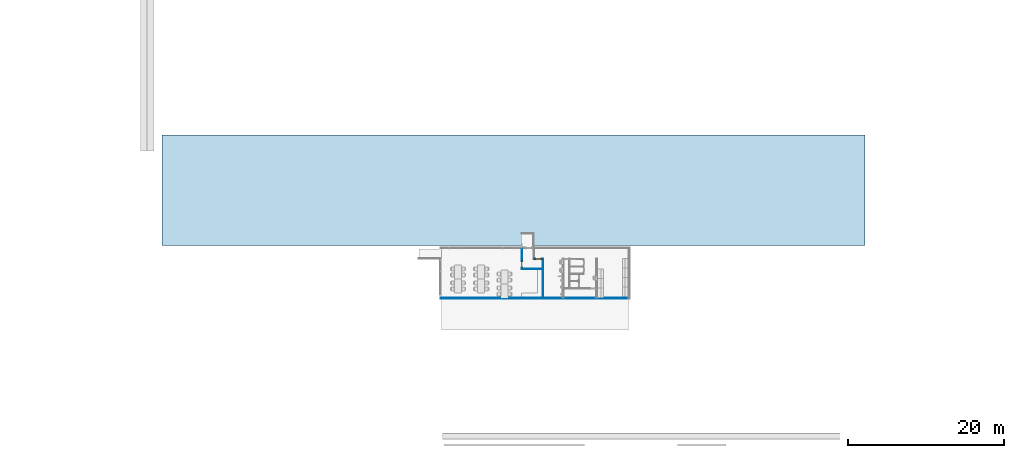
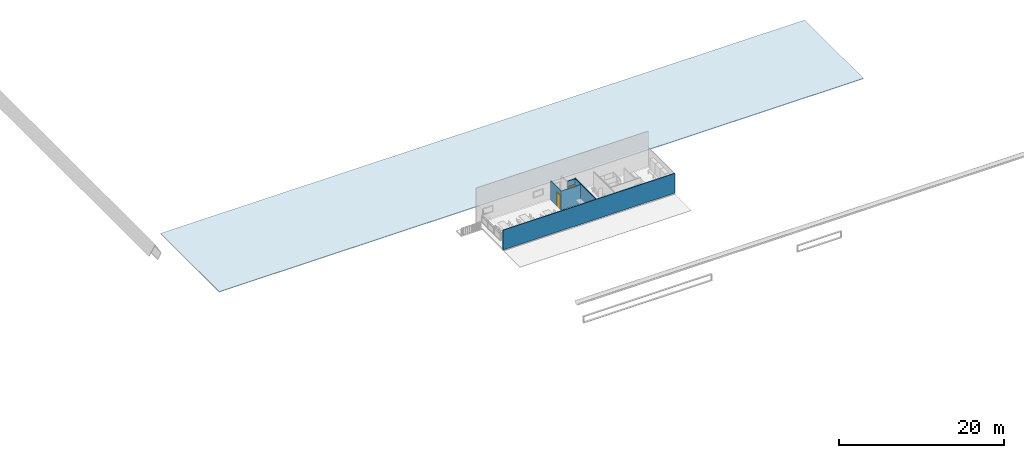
# One storey, part 2 of 6: 5 walls, 2 doors, 1 slab, 2 openings.
"""IFC2X3 building model written with IfcOpenShell, lengths in millimetres."""

from ifc_helpers import new_model, entity, si_unit, converted_unit, derived_unit, direction, frame, frame_2d, origin, origin_2d_with_axis, place, context, subcontext, project, spatial, polyline, rectangle, outline, extrude, source, transform, mapped, material, material_list, layer, layer_set, layer_usage, type_object, type_shapes, element, fill, save


model = new_model("IFC2X3")

# Units and contexts
model_context = context("Model", 3, precision=0.01, world=origin(), true_north=direction((4.05803320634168e-15, -1.0)))
body_context = subcontext(model_context, "Body", "Model", "MODEL_VIEW")
ifc_project = project(units=[si_unit("LENGTHUNIT", "METRE", prefix="MILLI"), si_unit("AREAUNIT", "SQUARE_METRE"), si_unit("VOLUMEUNIT", "CUBIC_METRE"), converted_unit("PLANEANGLEUNIT", "DEGREE", entity("IfcRatioMeasure", 0.0174532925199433), si_unit("PLANEANGLEUNIT", "RADIAN"), dimensions=[0, 0, 0, 0, 0, 0, 0]), si_unit("MASSUNIT", "GRAM", prefix="KILO"), derived_unit("MASSDENSITYUNIT", [(si_unit("MASSUNIT", "GRAM", prefix="KILO"), 1), (si_unit("LENGTHUNIT", "METRE"), -3)]), si_unit("TIMEUNIT", "SECOND"), si_unit("FREQUENCYUNIT", "HERTZ"), si_unit("THERMODYNAMICTEMPERATUREUNIT", "DEGREE_CELSIUS"), derived_unit("THERMALTRANSMITTANCEUNIT", [(si_unit("MASSUNIT", "GRAM", prefix="KILO"), 1), (si_unit("THERMODYNAMICTEMPERATUREUNIT", "KELVIN"), -1), (si_unit("TIMEUNIT", "SECOND"), -3)]), derived_unit("VOLUMETRICFLOWRATEUNIT", [(si_unit("LENGTHUNIT", "METRE"), 3), (si_unit("TIMEUNIT", "SECOND"), -1)]), si_unit("ELECTRICCURRENTUNIT", "AMPERE"), si_unit("ELECTRICVOLTAGEUNIT", "VOLT"), si_unit("POWERUNIT", "WATT"), si_unit("FORCEUNIT", "NEWTON", prefix="KILO"), si_unit("ILLUMINANCEUNIT", "LUX"), si_unit("LUMINOUSFLUXUNIT", "LUMEN"), si_unit("LUMINOUSINTENSITYUNIT", "CANDELA"), derived_unit("USERDEFINED", [(si_unit("MASSUNIT", "GRAM", prefix="KILO"), -1), (si_unit("LENGTHUNIT", "METRE"), -2), (si_unit("TIMEUNIT", "SECOND"), 3), (si_unit("LUMINOUSFLUXUNIT", "LUMEN"), 1)]), derived_unit("LINEARVELOCITYUNIT", [(si_unit("LENGTHUNIT", "METRE"), 1), (si_unit("TIMEUNIT", "SECOND"), -1)]), si_unit("PRESSUREUNIT", "PASCAL"), derived_unit("USERDEFINED", [(si_unit("LENGTHUNIT", "METRE"), -2), (si_unit("MASSUNIT", "GRAM", prefix="KILO"), 1), (si_unit("TIMEUNIT", "SECOND"), -2)])], contexts=[model_context])

# Site, building, storey
site_placement = place(None, frame((927466.849349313, 583801.882853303, 0.0), z_axis=(0.0, 0.0, 1.0), x_axis=(-1.0, 0.0, 0.0)))
site = spatial("IfcSite", under=ifc_project, at=site_placement, Name="Surface", CompositionType="ELEMENT")
building_placement = place(site_placement, origin())
building = spatial("IfcBuilding", under=site, at=building_placement, CompositionType="ELEMENT")
storey_placement = place(building_placement, frame((0.0, 0.0, 51027.1066036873)))
storey = spatial("IfcBuildingStorey", under=building, at=storey_placement, Name="2nd floor", CompositionType="ELEMENT", Elevation=51027.1066036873)

# Slab
ifc_material_1 = material(Name="Isopenal")
ifc_layer_1 = layer(ifc_material_1, 100.0)
ifc_layer_set_1 = layer_set([ifc_layer_1], Name="Floor:isopanel ceiling")
ifc_layer_usage_1 = layer_usage(ifc_layer_set_1, "AXIS3", "POSITIVE", 0.0)
slab_placement = place(storey_placement, origin())
element("IfcSlab", 1, at=slab_placement, inside=storey, material=ifc_layer_usage_1, Name="Floor:isopanel ceiling", ObjectType="Floor:isopanel ceiling", PredefinedType="FLOOR", context=body_context, shape_type="SweptSolid", body=[
    extrude(rectangle(XDim=14200.0180722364, YDim=89999.9999999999, at=frame_2d((0.0, -7.27595761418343e-12), x_axis=(1.0, 0.0))), frame((-90100.5917798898, 4578.26871510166, 2242.89339631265), z_axis=(0.0, 0.0, -1.0), x_axis=(0.0, 1.0, 0.0)), (0.0, 0.0, 1.0), 100.000000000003),
])

# Walls
ifc_material_2 = material(Name="Partition")
ifc_layer_2 = layer(ifc_material_2, 100.0)
ifc_layer_set_2 = layer_set([ifc_layer_2], Name="Basic Wall:wall 90 Partition")
ifc_layer_usage_2 = layer_usage(ifc_layer_set_2, "AXIS2", "POSITIVE", -50.0)
wall_type = type_object("IfcWallType", Name="Basic Wall:wall 90 Partition", PredefinedType="STANDARD", material=ifc_layer_set_2)
wall_1_placement = place(storey_placement, frame((-93858.8066174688, 13319.2679026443, 0.0), z_axis=(0.0, 0.0, 1.0), x_axis=(0.0, 1.0, 0.0)))
element("IfcWallStandardCase", 2, at=wall_1_placement, inside=storey, type_object=wall_type, material=ifc_layer_usage_2, Name="Basic Wall:wall 90 Partition", ObjectType="Basic Wall:wall 90 Partition", context=body_context, shape_type="SweptSolid", body=[
    extrude(rectangle(XDim=5050.00984857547, YDim=100.000000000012, at=frame_2d((2525.00492428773, 0.0), x_axis=(-1.0, 0.0))), origin(), (0.0, 0.0, 1.0), 3000.00000000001),
])
ifc_layer_usage_3 = layer_usage(ifc_layer_set_2, "AXIS2", "NEGATIVE", 50.0)
wall_2_placement = place(storey_placement, frame((-80800.5917798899, 18419.2777512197, 0.0), z_axis=(0.0, 0.0, 1.0), x_axis=(-1.0, 0.0, 0.0)))
element("IfcWallStandardCase", 3, at=wall_2_placement, inside=storey, type_object=wall_type, material=ifc_layer_usage_3, Name="Basic Wall:wall 90 Partition", ObjectType="Basic Wall:wall 90 Partition", context=body_context, shape_type="SweptSolid", body=[
    extrude(rectangle(XDim=24047.3454969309, YDim=99.9999999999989, at=frame_2d((12023.6727484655, 7.7804429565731e-13), x_axis=(-1.0, 0.0))), origin(), (0.0, 0.0, 1.0), 2919.99999999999),
])

# Wall, opening, door
ifc_layer_usage_4 = layer_usage(ifc_layer_set_2, "AXIS2", "NEGATIVE", 50.0)
wall_3_placement = place(storey_placement, frame((-92774.9288686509, 13369.2679026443, 0.0), z_axis=(0.0, 0.0, 1.0), x_axis=(-1.0, 0.0, 0.0)))
wall_3 = element("IfcWallStandardCase", 4, at=wall_3_placement, inside=storey, type_object=wall_type, material=ifc_layer_usage_4, Name="Basic Wall:wall 90 Partition", ObjectType="Basic Wall:wall 90 Partition", context=body_context, shape_type="SweptSolid", body=[
    extrude(rectangle(XDim=1033.87774881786, YDim=99.9999999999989, at=frame_2d((516.938874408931, -9.30810983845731e-13), x_axis=(-1.0, 0.0))), origin(), (0.0, 0.0, 1.0), 2919.99999999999),
])
opening_1_placement = place(wall_3_placement, frame((901.383392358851, 50.0, 0.0)))
opening_1 = element("IfcOpeningElement", 5, at=opening_1_placement, cuts=wall_3, Name="M_Single-Flush:0813 x 2030mm:1", ObjectType="Opening", context=body_context, shape_type="SweptSolid", body=[
    extrude(rectangle(XDim=813.0, YDim=2030.0, at=frame_2d((1015.0, 406.500000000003), x_axis=(0.0, -1.0))), frame((0.0, 0.0, 0.0), z_axis=(0.0, -1.0, 0.0), x_axis=(0.0, 0.0, 1.0)), (0.0, 0.0, 1.0), 100.0),
])
ifc_material_3 = material(Name="Door - Frame")
ifc_material_4 = material(Name="Door - Panel")
ifc_material_list_1 = material_list([ifc_material_3, ifc_material_4])
ifc_material_list_2 = material_list([ifc_material_3, ifc_material_4])
door_style_1 = type_object("IfcDoorStyle", Name="0813 x 2030mm", ConstructionType="NOTDEFINED", OperationType="SINGLE_SWING_LEFT", ParameterTakesPrecedence=False, Sizeable=False, material=ifc_material_list_2)
shared_shape_1 = source(origin(), body_context, "Body", "SweptSolid", [
    extrude(outline(polyline([(-482.5, -1072.0), (482.5, -1072.0), (482.5, 1034.0), (406.5, 1034.0), (406.5, -996.0), (-406.5, -996.0), (-406.5, 1034.0), (-482.5, 1034.0), (-482.5, -1072.0)])), frame((406.5, 125.0, 1034.0), z_axis=(0.0, -1.0, 0.0), x_axis=(-1.0, 0.0, 0.0)), (0.0, 0.0, 1.0), 24.9999999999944),
    extrude(outline(polyline([(-1072.0, -482.499999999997), (1034.0, -482.499999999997), (1034.0, -406.500000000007), (-996.0, -406.500000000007), (-996.0, 406.500000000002), (1034.0, 406.500000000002), (1034.0, 482.500000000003), (-1072.0, 482.500000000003), (-1072.0, -482.499999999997)])), frame((406.499999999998, 0.0, 1034.0), z_axis=(0.0, -1.0, 0.0), x_axis=(0.0, 0.0, -1.0)), (0.0, 0.0, 1.0), 25.0000000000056),
    extrude(rectangle(XDim=813.0, YDim=51.0, at=origin_2d_with_axis()), frame((406.500000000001, 74.4999999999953, 0.0)), (0.0, 0.0, 1.0), 2030.0),
])
type_shapes(door_style_1, [shared_shape_1])
door_1_placement = place(opening_1_placement, frame((0.0, 0.0, 0.0), z_axis=(0.0, 0.0, 1.0), x_axis=(-1.0, 0.0, 0.0)))
door_1 = element("IfcDoor", 6, at=door_1_placement, inside=storey, type_object=door_style_1, material=ifc_material_list_1, Name="M_Single-Flush:0813 x 2030mm", ObjectType="0813 x 2030mm", OverallHeight=2030.0, OverallWidth=813.000000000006, context=body_context, shape_type="MappedRepresentation", body=[
    mapped(shared_shape_1, transform((0.0, 0.0, 0.0), scale=1.0)),
])
fill(opening_1, door_1)

# Wall
ifc_layer_usage_5 = layer_usage(ifc_layer_set_2, "AXIS2", "NEGATIVE", 50.0)
wall_4_placement = place(storey_placement, frame((-93808.8066174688, 14669.2679026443, 0.0)))
element("IfcWallStandardCase", 7, at=wall_4_placement, inside=storey, type_object=wall_type, material=ifc_layer_usage_5, Name="Basic Wall:wall 90 Partition", ObjectType="Basic Wall:wall 90 Partition", context=body_context, shape_type="SweptSolid", body=[
    extrude(rectangle(XDim=2689.76678471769, YDim=99.9999999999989, at=frame_2d((1344.88339235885, 5.6488147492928e-13), x_axis=(-1.0, 0.0))), origin(), (0.0, 0.0, 1.0), 2799.99999999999),
])

# Wall, opening, door
ifc_layer_usage_6 = layer_usage(ifc_layer_set_2, "AXIS2", "NEGATIVE", 50.0)
wall_5_placement = place(storey_placement, frame((-91169.0398327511, 14619.2679026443, 0.0), z_axis=(0.0, 0.0, 1.0), x_axis=(0.0, -1.0, 0.0)))
wall_5 = element("IfcWallStandardCase", 8, at=wall_5_placement, inside=storey, type_object=wall_type, material=ifc_layer_usage_6, Name="Basic Wall:wall 90 Partition", ObjectType="Basic Wall:wall 90 Partition", context=body_context, shape_type="SweptSolid", body=[
    extrude(rectangle(XDim=2522.16685168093, YDim=100.000000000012, at=frame_2d((1261.08342584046, 0.0), x_axis=(-1.0, 0.0))), origin(), (0.0, 0.0, 1.0), 2799.99999999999),
])
opening_2_placement = place(wall_5_placement, frame((109.16685168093, -50.0, 0.0)))
opening_2 = element("IfcOpeningElement", 9, at=opening_2_placement, cuts=wall_5, Name="M_Single-Flush:0813 x 2030mm:1", ObjectType="Opening", context=body_context, shape_type="SweptSolid", body=[
    extrude(rectangle(XDim=813.0, YDim=2030.0, at=frame_2d((1015.0, 406.5), x_axis=(0.0, 1.0))), frame((0.0, 0.0, 0.0), z_axis=(0.0, 1.0, 0.0), x_axis=(0.0, 0.0, 1.0)), (0.0, 0.0, 1.0), 100.0),
])
ifc_material_list_3 = material_list([ifc_material_3, ifc_material_4])
ifc_material_list_4 = material_list([ifc_material_3, ifc_material_4])
door_style_2 = type_object("IfcDoorStyle", Name="0813 x 2030mm", ConstructionType="NOTDEFINED", OperationType="SINGLE_SWING_RIGHT", ParameterTakesPrecedence=False, Sizeable=False, material=ifc_material_list_4)
shared_shape_2 = source(origin(), body_context, "Body", "SweptSolid", [
    extrude(outline(polyline([(-482.5, -1072.0), (482.5, -1072.0), (482.5, 1034.0), (406.5, 1034.0), (406.5, -996.0), (-406.5, -996.0), (-406.5, 1034.0), (-482.5, 1034.0), (-482.5, -1072.0)])), frame((406.500000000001, 100.0, 1034.0), z_axis=(0.0, 1.0, 0.0), x_axis=(1.0, 0.0, 0.0)), (0.0, 0.0, 1.0), 24.9999999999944),
    extrude(outline(polyline([(-1072.0, -482.499999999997), (1034.0, -482.499999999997), (1034.0, -406.500000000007), (-996.0, -406.500000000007), (-996.0, 406.500000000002), (1034.0, 406.500000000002), (1034.0, 482.500000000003), (-1072.0, 482.500000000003), (-1072.0, -482.499999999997)])), frame((406.500000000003, -25.0, 1034.0), z_axis=(0.0, 1.0, 0.0), x_axis=(0.0, 0.0, -1.0)), (0.0, 0.0, 1.0), 25.0000000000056),
    extrude(rectangle(XDim=51.0, YDim=813.0, at=origin_2d_with_axis()), frame((406.500000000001, 74.4999999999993, 0.0), z_axis=(0.0, 0.0, 1.0), x_axis=(0.0, 1.0, 0.0)), (0.0, 0.0, 1.0), 2030.0),
])
type_shapes(door_style_2, [shared_shape_2])
door_2_placement = place(opening_2_placement, origin())
door_2 = element("IfcDoor", 10, at=door_2_placement, inside=storey, type_object=door_style_2, material=ifc_material_list_3, Name="M_Single-Flush:0813 x 2030mm", ObjectType="0813 x 2030mm", OverallHeight=2030.0, OverallWidth=812.999999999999, context=body_context, shape_type="MappedRepresentation", body=[
    mapped(shared_shape_2, transform((0.0, 0.0, 0.0), scale=1.0)),
])
fill(opening_2, door_2)

save(model, "model.ifc")
